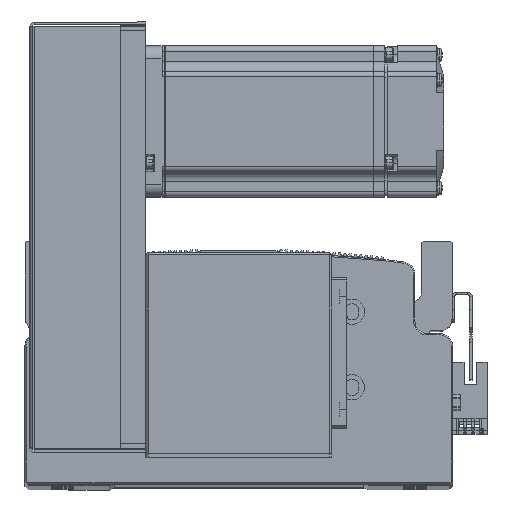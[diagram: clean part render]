
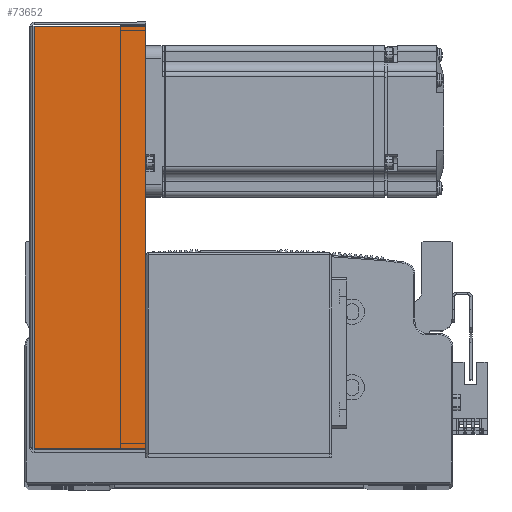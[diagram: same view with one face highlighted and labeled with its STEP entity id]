
A CAD part, top view. The second image highlights one B-rep face of the part: STEP entity #73652.
In plain terms, the highlighted planar face has unit normal (0, 0, 1) as drawn and (0, 0, -1) by its records, which use the part's own axes.
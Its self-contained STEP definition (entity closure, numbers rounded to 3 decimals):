
#11484 = CARTESIAN_POINT ( 'NONE',  ( 0., 0.737, -40.5 ) ) ;
#11490 = DIRECTION ( 'NONE',  ( 0., 1., 0. ) ) ;
#11493 = DIRECTION ( 'NONE',  ( 1., 0., 0. ) ) ;
#11512 = CARTESIAN_POINT ( 'NONE',  ( -83.793, 0., -40.5 ) ) ;
#11538 = CARTESIAN_POINT ( 'NONE',  ( 84.5, 45., -40.5 ) ) ;
#11550 = DIRECTION ( 'NONE',  ( 1., 0., 0. ) ) ;
#11671 = DIRECTION ( 'NONE',  ( 0., 1., 0. ) ) ;
#11674 = CARTESIAN_POINT ( 'NONE',  ( 83.793, 0., -40.5 ) ) ;
#17403 = LINE ( 'NONE', #11512, #17474 ) ;
#17410 = LINE ( 'NONE', #11484, #17436 ) ;
#17436 = VECTOR ( 'NONE', #11493, 1000. ) ;
#17474 = VECTOR ( 'NONE', #11490, 1000. ) ;
#17521 = VECTOR ( 'NONE', #11671, 1000. ) ;
#17526 = LINE ( 'NONE', #11538, #17543 ) ;
#17543 = VECTOR ( 'NONE', #11550, 1000. ) ;
#17564 = LINE ( 'NONE', #11674, #17521 ) ;
#19602 = DIRECTION ( 'NONE',  ( 0., -1., 0. ) ) ;
#19612 = CARTESIAN_POINT ( 'NONE',  ( 0., 0., -40.5 ) ) ;
#19637 = PLANE ( 'NONE',  #20766 ) ;
#19638 = DIRECTION ( 'NONE',  ( 0., 0., 1. ) ) ;
#20766 = AXIS2_PLACEMENT_3D ( 'NONE', #19612, #19638, #19602 ) ;
#22960 = FACE_OUTER_BOUND ( 'NONE', #55944, .T. ) ;
#37359 = VERTEX_POINT ( 'NONE', #79986 ) ;
#37459 = VERTEX_POINT ( 'NONE', #79937 ) ;
#37519 = VERTEX_POINT ( 'NONE', #80021 ) ;
#37569 = VERTEX_POINT ( 'NONE', #80065 ) ;
#55944 = EDGE_LOOP ( 'NONE', ( #82448, #84285, #82501, #72549 ) ) ;
#72549 = ORIENTED_EDGE ( 'NONE', *, *, #77023, .F. ) ;
#73652 = ADVANCED_FACE ( 'NONE', ( #22960 ), #19637, .F. ) ;
#76987 = EDGE_CURVE ( 'NONE', #37359, #37459, #17403, .T. ) ;
#76992 = EDGE_CURVE ( 'NONE', #37359, #37569, #17410, .T. ) ;
#77001 = EDGE_CURVE ( 'NONE', #37459, #37519, #17526, .T. ) ;
#77023 = EDGE_CURVE ( 'NONE', #37569, #37519, #17564, .T. ) ;
#79937 = CARTESIAN_POINT ( 'NONE',  ( -83.793, 45., -40.5 ) ) ;
#79986 = CARTESIAN_POINT ( 'NONE',  ( -83.793, 0.737, -40.5 ) ) ;
#80021 = CARTESIAN_POINT ( 'NONE',  ( 83.793, 45., -40.5 ) ) ;
#80065 = CARTESIAN_POINT ( 'NONE',  ( 83.793, 0.737, -40.5 ) ) ;
#82448 = ORIENTED_EDGE ( 'NONE', *, *, #76992, .F. ) ;
#82501 = ORIENTED_EDGE ( 'NONE', *, *, #77001, .T. ) ;
#84285 = ORIENTED_EDGE ( 'NONE', *, *, #76987, .T. ) ;
